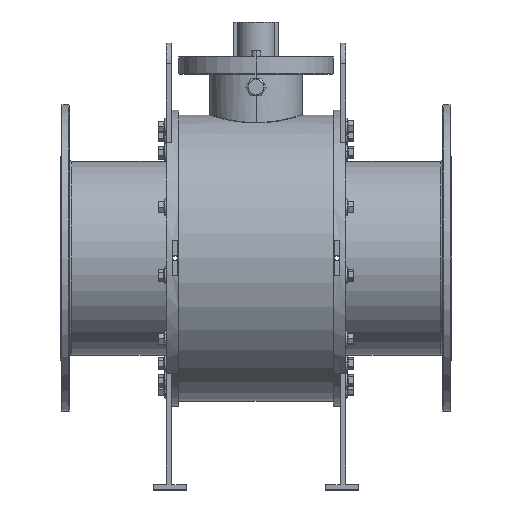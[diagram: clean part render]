
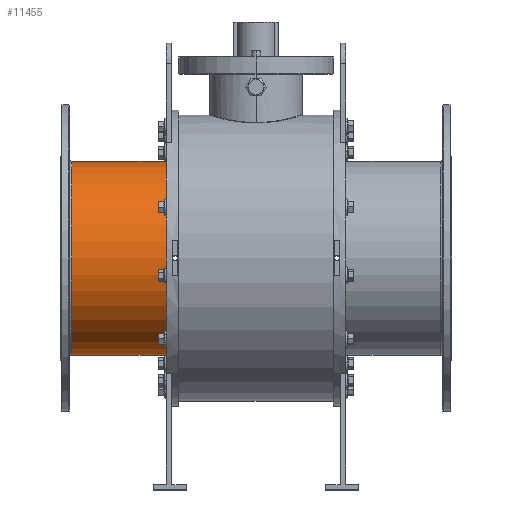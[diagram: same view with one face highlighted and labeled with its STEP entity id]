
A CAD part, top view. The second image highlights one B-rep face of the part: STEP entity #11455.
In plain terms, the highlighted cylindrical face has radius 188.5 mm (diameter 377 mm), a partial arc.
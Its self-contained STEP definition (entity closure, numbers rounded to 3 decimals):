
#226 = EDGE_CURVE ( 'NONE', #9812, #3878, #10116, .T. ) ;
#1106 = CARTESIAN_POINT ( 'NONE',  ( -175., -188.5, 0. ) ) ;
#1244 = EDGE_CURVE ( 'NONE', #11854, #5426, #5657, .T. ) ;
#1488 = CARTESIAN_POINT ( 'NONE',  ( -381., 188.5, 0. ) ) ;
#1546 = DIRECTION ( 'NONE',  ( 0., -1., 0. ) ) ;
#3330 = AXIS2_PLACEMENT_3D ( 'NONE', #13327, #10087, #12139 ) ;
#3460 = CARTESIAN_POINT ( 'NONE',  ( -175., 188.5, 0. ) ) ;
#3557 = EDGE_CURVE ( 'NONE', #9812, #5426, #6639, .T. ) ;
#3595 = CARTESIAN_POINT ( 'NONE',  ( -359., 0., 0. ) ) ;
#3777 = DIRECTION ( 'NONE',  ( -1., 0., 0. ) ) ;
#3878 = VERTEX_POINT ( 'NONE', #3460 ) ;
#4727 = CARTESIAN_POINT ( 'NONE',  ( -381., -188.5, 0. ) ) ;
#4838 = CARTESIAN_POINT ( 'NONE',  ( -381., 0., 0. ) ) ;
#5145 = ORIENTED_EDGE ( 'NONE', *, *, #226, .T. ) ;
#5426 = VERTEX_POINT ( 'NONE', #12493 ) ;
#5657 = CIRCLE ( 'NONE', #8608, 188.5 ) ;
#6639 = LINE ( 'NONE', #4727, #12690 ) ;
#6713 = EDGE_CURVE ( 'NONE', #3878, #11854, #11324, .T. ) ;
#6718 = DIRECTION ( 'NONE',  ( -1., 0., 0. ) ) ;
#6974 = CYLINDRICAL_SURFACE ( 'NONE', #12099, 188.5 ) ;
#7557 = ORIENTED_EDGE ( 'NONE', *, *, #3557, .F. ) ;
#8608 = AXIS2_PLACEMENT_3D ( 'NONE', #3595, #12436, #1546 ) ;
#8868 = CARTESIAN_POINT ( 'NONE',  ( -359., 188.5, 0. ) ) ;
#9812 = VERTEX_POINT ( 'NONE', #1106 ) ;
#10087 = DIRECTION ( 'NONE',  ( -1., 0., 0. ) ) ;
#10116 = CIRCLE ( 'NONE', #3330, 188.5 ) ;
#10126 = DIRECTION ( 'NONE',  ( -1., 0., 0. ) ) ;
#10955 = VECTOR ( 'NONE', #10126, 1000. ) ;
#11324 = LINE ( 'NONE', #1488, #10955 ) ;
#11426 = DIRECTION ( 'NONE',  ( 0., -1., 0. ) ) ;
#11455 = ADVANCED_FACE ( 'NONE', ( #12415 ), #6974, .T. ) ;
#11854 = VERTEX_POINT ( 'NONE', #8868 ) ;
#12018 = ORIENTED_EDGE ( 'NONE', *, *, #1244, .T. ) ;
#12099 = AXIS2_PLACEMENT_3D ( 'NONE', #4838, #3777, #11426 ) ;
#12139 = DIRECTION ( 'NONE',  ( 0., 0., 1. ) ) ;
#12415 = FACE_OUTER_BOUND ( 'NONE', #12928, .T. ) ;
#12436 = DIRECTION ( 'NONE',  ( 1., 0., 0. ) ) ;
#12493 = CARTESIAN_POINT ( 'NONE',  ( -359., -188.5, 0. ) ) ;
#12690 = VECTOR ( 'NONE', #6718, 1000. ) ;
#12928 = EDGE_LOOP ( 'NONE', ( #5145, #12984, #12018, #7557 ) ) ;
#12984 = ORIENTED_EDGE ( 'NONE', *, *, #6713, .T. ) ;
#13327 = CARTESIAN_POINT ( 'NONE',  ( -175., 0., 0. ) ) ;
